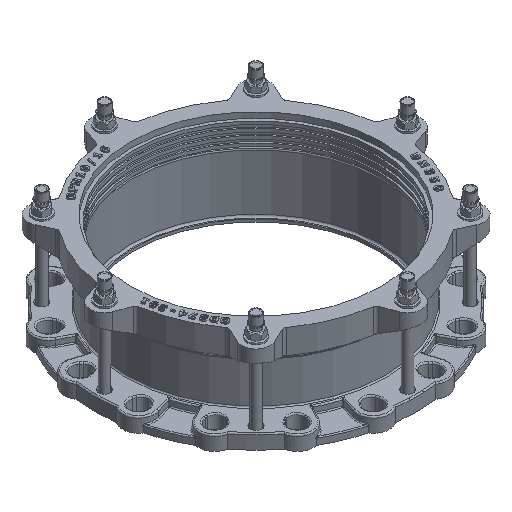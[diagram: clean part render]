
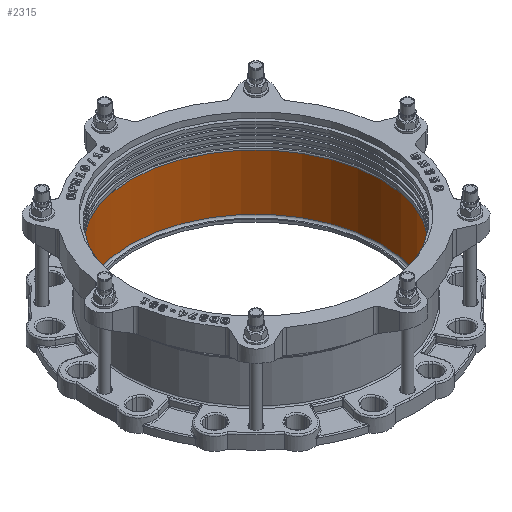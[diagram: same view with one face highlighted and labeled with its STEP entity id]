
A CAD part, isometric view. The second image highlights one B-rep face of the part: STEP entity #2315.
In plain terms, the highlighted cylindrical face has radius 197 mm (diameter 394 mm), a full revolution.
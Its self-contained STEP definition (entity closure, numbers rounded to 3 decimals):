
#2315=ADVANCED_FACE('',(#16624,#16626),#16628,.F.);
#16624=FACE_OUTER_BOUND('',#16625,.T.);
#16625=EDGE_LOOP('',(#24512));
#16626=FACE_OUTER_BOUND('',#16627,.T.);
#16627=EDGE_LOOP('',(#24513));
#16628=CYLINDRICAL_SURFACE('',#16629,197.);
#16629=AXIS2_PLACEMENT_3D('',#16630,#16631,#16632);
#16630=CARTESIAN_POINT('',(0.,0.,4.));
#16631=DIRECTION('',(0.,0.,1.));
#16632=DIRECTION('',(-1.,0.,0.));
#24512=ORIENTED_EDGE('',*,*,#30801,.F.);
#24513=ORIENTED_EDGE('',*,*,#30802,.T.);
#30801=EDGE_CURVE('',#35091,#35091,#35092,.T.);
#30802=EDGE_CURVE('',#35093,#35093,#35094,.F.);
#35091=VERTEX_POINT('',#49517);
#35092=CIRCLE('',#49518,197.);
#35093=VERTEX_POINT('',#49522);
#35094=CIRCLE('',#49523,197.);
#49517=CARTESIAN_POINT('',(0.,197.,94.5));
#49518=AXIS2_PLACEMENT_3D('',#49519,#49520,#49521);
#49519=CARTESIAN_POINT('',(0.,0.,94.5));
#49520=DIRECTION('',(0.,0.,-1.));
#49521=DIRECTION('',(0.,1.,0.));
#49522=CARTESIAN_POINT('',(0.,197.,7.));
#49523=AXIS2_PLACEMENT_3D('',#49524,#49525,#49526);
#49524=CARTESIAN_POINT('',(0.,0.,7.));
#49525=DIRECTION('',(0.,0.,1.));
#49526=DIRECTION('',(0.,1.,0.));
